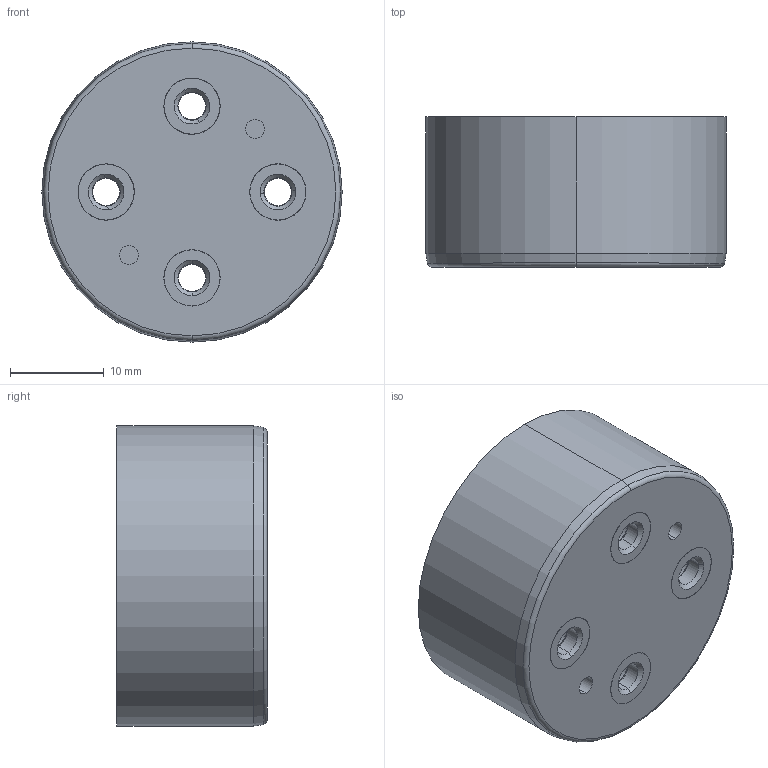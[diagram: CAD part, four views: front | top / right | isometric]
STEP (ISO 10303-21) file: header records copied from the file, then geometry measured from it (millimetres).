
FILE_DESCRIPTION (( 'STEP AP214' ), '1' );
FILE_NAME ('BM321104.STEP', '2013-08-02T10:54:16', ( '' ), ( '' ), 'SwSTEP 2.0', 'SolidWorks 2011', '' );
FILE_SCHEMA (( 'AUTOMOTIVE_DESIGN' ));
Length unit declared in the file: millimetre
Products named in the file (5): BM321104-4_rectificada; BM160603-1_comprimida; BM160603-2; BM321104; BM160603-3_rectificada
Assembly tree (13 placements, depth 2):
  BM321104
    BM321104-4_rectificada
    BM160603-1_comprimida  x4
    BM160603-2  x4
    BM160603-3_rectificada  x4
Bounding box: 32 x 16 x 32 mm (x, y, z)
Volume: 10526.1 mm3; surface area: 6116.5 mm2
Topology: 13 solids, 13 shells, 318 faces, 718 edges, 448 vertices
Faces by surface type: plane 128, cylinder 86, cone 82, torus 14, bspline 8
Entity records: 6974 total; most frequent: CARTESIAN_POINT 2140, DIRECTION 976, ORIENTED_EDGE 842, EDGE_CURVE 421, AXIS2_PLACEMENT_3D 376, VERTEX_POINT 268, EDGE_LOOP 233, VECTOR 224
